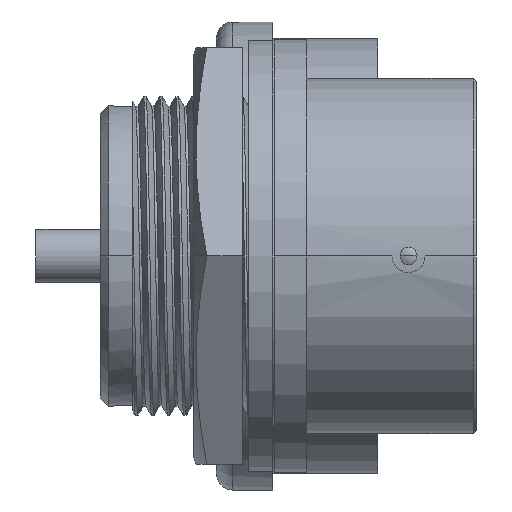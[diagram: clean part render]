
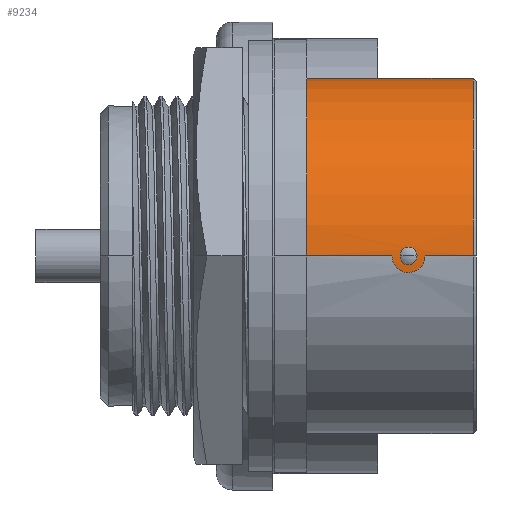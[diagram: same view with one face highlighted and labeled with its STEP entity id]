
A CAD part, front view. The second image highlights one B-rep face of the part: STEP entity #9234.
In plain terms, the highlighted cylindrical face has radius 11 mm (diameter 22 mm), a partial arc.
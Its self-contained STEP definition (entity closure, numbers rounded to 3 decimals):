
#1025=CARTESIAN_POINT('',(25.,14.896,-14.896));
#1026=DIRECTION('',(-1.,0.,0.));
#1027=DIRECTION('',(0.,-1.,0.));
#1028=AXIS2_PLACEMENT_3D('',#1025,#1026,#1027);
#1030=CARTESIAN_POINT('',(25.,14.896,-14.896));
#1031=DIRECTION('',(-1.,0.,0.));
#1032=DIRECTION('',(0.,0.,1.));
#1033=AXIS2_PLACEMENT_3D('',#1030,#1031,#1032);
#1039=DIRECTION('',(-1.,0.,0.));
#1040=VECTOR('',#1039,2.975);
#1041=CARTESIAN_POINT('',(25.,3.896,-14.896));
#1042=LINE('',#1041,#1040);
#1043=CARTESIAN_POINT('',(22.025,3.896,-14.896));
#1044=CARTESIAN_POINT('',(22.024,3.896,-15.013));
#1045=CARTESIAN_POINT('',(21.987,3.899,-15.234));
#1046=CARTESIAN_POINT('',(21.82,3.914,-15.542));
#1047=CARTESIAN_POINT('',(21.578,3.929,-15.76));
#1048=CARTESIAN_POINT('',(21.314,3.94,-15.888));
#1049=CARTESIAN_POINT('',(20.984,3.945,-15.936));
#1050=CARTESIAN_POINT('',(20.696,3.941,-15.89));
#1051=CARTESIAN_POINT('',(20.405,3.928,-15.751));
#1052=CARTESIAN_POINT('',(20.171,3.913,-15.527));
#1053=CARTESIAN_POINT('',(20.012,3.899,-15.232));
#1054=CARTESIAN_POINT('',(19.977,3.896,-15.013));
#1055=CARTESIAN_POINT('',(19.975,3.896,-14.896));
#1057=DIRECTION('',(-1.,0.,0.));
#1058=VECTOR('',#1057,5.275);
#1059=CARTESIAN_POINT('',(19.975,3.896,-14.896));
#1060=LINE('',#1059,#1058);
#1061=CARTESIAN_POINT('',(20.473,20.396,-5.369));
#1062=CARTESIAN_POINT('',(20.473,20.331,-5.332));
#1063=CARTESIAN_POINT('',(20.501,20.213,-5.266));
#1064=CARTESIAN_POINT('',(20.6,20.068,-5.187));
#1065=CARTESIAN_POINT('',(20.752,19.96,-5.13));
#1066=CARTESIAN_POINT('',(20.933,19.908,-5.104));
#1067=CARTESIAN_POINT('',(21.118,19.917,-5.108));
#1068=CARTESIAN_POINT('',(21.283,19.98,-5.141));
#1069=CARTESIAN_POINT('',(21.414,20.086,-5.197));
#1070=CARTESIAN_POINT('',(21.502,20.224,-5.272));
#1071=CARTESIAN_POINT('',(21.527,20.335,-5.334));
#1072=CARTESIAN_POINT('',(21.527,20.396,-5.369));
#1074=CARTESIAN_POINT('',(21.527,3.896,-14.896));
#1075=CARTESIAN_POINT('',(21.527,3.896,-14.818));
#1076=CARTESIAN_POINT('',(21.498,3.897,-14.677));
#1077=CARTESIAN_POINT('',(21.375,3.903,-14.489));
#1078=CARTESIAN_POINT('',(21.199,3.908,-14.374));
#1079=CARTESIAN_POINT('',(20.993,3.91,-14.333));
#1080=CARTESIAN_POINT('',(20.791,3.908,-14.379));
#1081=CARTESIAN_POINT('',(20.622,3.903,-14.493));
#1082=CARTESIAN_POINT('',(20.502,3.897,-14.678));
#1083=CARTESIAN_POINT('',(20.473,3.896,-14.819));
#1084=CARTESIAN_POINT('',(20.473,3.896,-14.896));
#1086=CARTESIAN_POINT('',(20.473,3.896,-14.896));
#1087=CARTESIAN_POINT('',(20.473,3.896,-14.966));
#1088=CARTESIAN_POINT('',(20.498,3.897,-15.097));
#1089=CARTESIAN_POINT('',(20.596,3.902,-15.265));
#1090=CARTESIAN_POINT('',(20.746,3.907,-15.39));
#1091=CARTESIAN_POINT('',(20.928,3.91,-15.45));
#1092=CARTESIAN_POINT('',(21.115,3.909,-15.442));
#1093=CARTESIAN_POINT('',(21.281,3.906,-15.372));
#1094=CARTESIAN_POINT('',(21.412,3.901,-15.252));
#1095=CARTESIAN_POINT('',(21.502,3.897,-15.094));
#1096=CARTESIAN_POINT('',(21.527,3.896,-14.966));
#1097=CARTESIAN_POINT('',(21.527,3.896,-14.896));
#1099=DIRECTION('',(-1.,0.,0.));
#1100=VECTOR('',#1099,0.6);
#1101=CARTESIAN_POINT('',(25.,25.896,-14.896));
#1102=LINE('',#1101,#1100);
#1103=DIRECTION('',(-1.,0.,0.));
#1104=VECTOR('',#1103,8.7);
#1105=CARTESIAN_POINT('',(23.4,25.896,-14.896));
#1106=LINE('',#1105,#1104);
#1150=CARTESIAN_POINT('',(24.4,25.896,-14.896));
#1151=CARTESIAN_POINT('',(24.4,25.896,-14.831));
#1152=CARTESIAN_POINT('',(24.375,25.894,-14.701));
#1153=CARTESIAN_POINT('',(24.262,25.89,-14.532));
#1154=CARTESIAN_POINT('',(24.095,25.885,-14.421));
#1155=CARTESIAN_POINT('',(23.9,25.884,-14.383));
#1156=CARTESIAN_POINT('',(23.702,25.886,-14.422));
#1157=CARTESIAN_POINT('',(23.535,25.89,-14.535));
#1158=CARTESIAN_POINT('',(23.425,25.894,-14.703));
#1159=CARTESIAN_POINT('',(23.4,25.896,-14.832));
#1160=CARTESIAN_POINT('',(23.4,25.896,-14.896));
#1194=CARTESIAN_POINT('',(14.7,14.896,-14.896));
#1195=DIRECTION('',(1.,0.,0.));
#1196=DIRECTION('',(0.,1.,0.));
#1197=AXIS2_PLACEMENT_3D('',#1194,#1195,#1196);
#4849=CARTESIAN_POINT('',(20.473,20.396,-5.369));
#4850=CARTESIAN_POINT('',(20.473,20.452,-5.402));
#4851=CARTESIAN_POINT('',(20.494,20.558,-5.464));
#4852=CARTESIAN_POINT('',(20.589,20.706,-5.555));
#4853=CARTESIAN_POINT('',(20.735,20.812,-5.622));
#4854=CARTESIAN_POINT('',(20.912,20.867,-5.657));
#4855=CARTESIAN_POINT('',(21.096,20.865,-5.656));
#4856=CARTESIAN_POINT('',(21.268,20.81,-5.621));
#4857=CARTESIAN_POINT('',(21.412,20.705,-5.554));
#4858=CARTESIAN_POINT('',(21.506,20.558,-5.464));
#4859=CARTESIAN_POINT('',(21.527,20.452,-5.402));
#4860=CARTESIAN_POINT('',(21.527,20.396,-5.369));
#6865=VERTEX_POINT('',#1074);
#6866=VERTEX_POINT('',#1084);
#6869=CARTESIAN_POINT('',(25.,3.896,-14.896));
#6870=CARTESIAN_POINT('',(22.025,3.896,-14.896));
#6871=VERTEX_POINT('',#6869);
#6872=VERTEX_POINT('',#6870);
#6873=VERTEX_POINT('',#1055);
#6874=CARTESIAN_POINT('',(14.7,3.896,-14.896));
#6875=VERTEX_POINT('',#6874);
#6876=CARTESIAN_POINT('',(14.7,25.896,-14.896));
#6877=VERTEX_POINT('',#6876);
#6878=CARTESIAN_POINT('',(23.4,25.896,-14.896));
#6879=VERTEX_POINT('',#6878);
#6880=VERTEX_POINT('',#1150);
#6881=CARTESIAN_POINT('',(25.,25.896,-14.896));
#6882=VERTEX_POINT('',#6881);
#6883=CARTESIAN_POINT('',(25.,14.896,-3.896));
#6884=VERTEX_POINT('',#6883);
#6885=VERTEX_POINT('',#4849);
#6886=VERTEX_POINT('',#4860);
#9199=CARTESIAN_POINT('',(0.735,14.896,
-14.896));
#9200=DIRECTION('',(1.,0.,0.));
#9201=DIRECTION('',(0.,-1.,0.));
#9202=AXIS2_PLACEMENT_3D('',#9199,#9200,#9201);
#9203=CYLINDRICAL_SURFACE('',#9202,11.);
#9205=ORIENTED_EDGE('',*,*,#9204,.T.);
#9207=ORIENTED_EDGE('',*,*,#9206,.T.);
#9209=ORIENTED_EDGE('',*,*,#9208,.T.);
#9211=ORIENTED_EDGE('',*,*,#9210,.F.);
#9213=ORIENTED_EDGE('',*,*,#9212,.F.);
#9215=ORIENTED_EDGE('',*,*,#9214,.F.);
#9217=ORIENTED_EDGE('',*,*,#9216,.F.);
#9218=ORIENTED_EDGE('',*,*,#9188,.F.);
#9219=ORIENTED_EDGE('',*,*,#9186,.F.);
#9220=EDGE_LOOP('',(#9205,#9207,#9209,#9211,#9213,#9215,#9217,#9218,#9219));
#9221=FACE_OUTER_BOUND('',#9220,.F.);
#9223=ORIENTED_EDGE('',*,*,#9222,.F.);
#9225=ORIENTED_EDGE('',*,*,#9224,.T.);
#9226=EDGE_LOOP('',(#9223,#9225));
#9227=FACE_BOUND('',#9226,.F.);
#9229=ORIENTED_EDGE('',*,*,#9228,.T.);
#9231=ORIENTED_EDGE('',*,*,#9230,.T.);
#9232=EDGE_LOOP('',(#9229,#9231));
#9233=FACE_BOUND('',#9232,.F.);
#1029=CIRCLE('',#1028,11.);
#1034=CIRCLE('',#1033,11.);
#1056=B_SPLINE_CURVE_WITH_KNOTS('',3,(#1043,#1044,#1045,#1046,#1047,#1048,#1049,
#1050,#1051,#1052,#1053,#1054,#1055),.UNSPECIFIED.,.F.,.F.,(4,1,1,1,1,1,1,1,1,1,
4),(0.,0.1,0.2,0.3,0.4,0.5,0.6,0.7,0.8,0.9,1.),
.UNSPECIFIED.);
#1073=B_SPLINE_CURVE_WITH_KNOTS('',3,(#1061,#1062,#1063,#1064,#1065,#1066,#1067,
#1068,#1069,#1070,#1071,#1072),.UNSPECIFIED.,.F.,.F.,(4,1,1,1,1,1,1,1,1,4),
(0.,0.111,0.222,0.333,0.444,
0.556,0.667,0.778,0.889,1.),
.UNSPECIFIED.);
#1085=B_SPLINE_CURVE_WITH_KNOTS('',3,(#1074,#1075,#1076,#1077,#1078,#1079,#1080,
#1081,#1082,#1083,#1084),.UNSPECIFIED.,.F.,.F.,(4,1,1,1,1,1,1,1,4),(0.,
0.125,0.25,0.375,0.5,0.625,0.75,0.875,1.),.UNSPECIFIED.);
#1098=B_SPLINE_CURVE_WITH_KNOTS('',3,(#1086,#1087,#1088,#1089,#1090,#1091,#1092,
#1093,#1094,#1095,#1096,#1097),.UNSPECIFIED.,.F.,.F.,(4,1,1,1,1,1,1,1,1,4),
(0.,0.111,0.222,0.333,0.444,
0.556,0.667,0.778,0.889,1.),
.UNSPECIFIED.);
#1161=B_SPLINE_CURVE_WITH_KNOTS('',3,(#1150,#1151,#1152,#1153,#1154,#1155,#1156,
#1157,#1158,#1159,#1160),.UNSPECIFIED.,.F.,.F.,(4,1,1,1,1,1,1,1,4),(0.,
0.125,0.25,0.375,0.5,0.625,0.75,0.875,1.),.UNSPECIFIED.);
#1198=CIRCLE('',#1197,11.);
#4861=B_SPLINE_CURVE_WITH_KNOTS('',3,(#4849,#4850,#4851,#4852,#4853,#4854,#4855,
#4856,#4857,#4858,#4859,#4860),.UNSPECIFIED.,.F.,.F.,(4,1,1,1,1,1,1,1,1,4),
(0.,0.111,0.222,0.333,0.444,
0.556,0.667,0.778,0.889,1.),
.UNSPECIFIED.);
#9186=EDGE_CURVE('',#6871,#6884,#1029,.T.);
#9188=EDGE_CURVE('',#6884,#6882,#1034,.T.);
#9204=EDGE_CURVE('',#6871,#6872,#1042,.T.);
#9206=EDGE_CURVE('',#6872,#6873,#1056,.T.);
#9208=EDGE_CURVE('',#6873,#6875,#1060,.T.);
#9210=EDGE_CURVE('',#6877,#6875,#1198,.T.);
#9212=EDGE_CURVE('',#6879,#6877,#1106,.T.);
#9214=EDGE_CURVE('',#6880,#6879,#1161,.T.);
#9216=EDGE_CURVE('',#6882,#6880,#1102,.T.);
#9222=EDGE_CURVE('',#6885,#6886,#4861,.T.);
#9224=EDGE_CURVE('',#6885,#6886,#1073,.T.);
#9228=EDGE_CURVE('',#6865,#6866,#1085,.T.);
#9230=EDGE_CURVE('',#6866,#6865,#1098,.T.);
#9234=ADVANCED_FACE('',(#9221,#9227,#9233),#9203,.T.);
